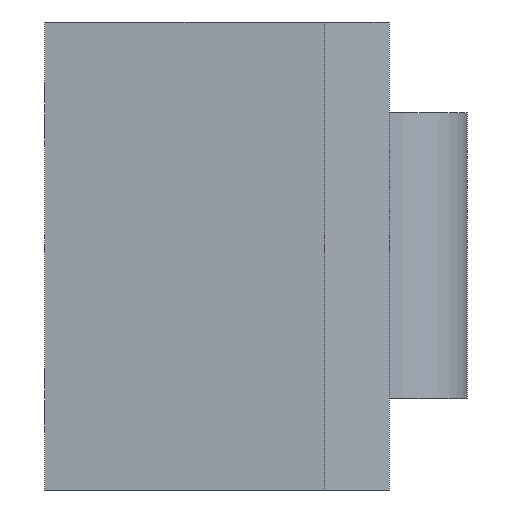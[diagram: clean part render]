
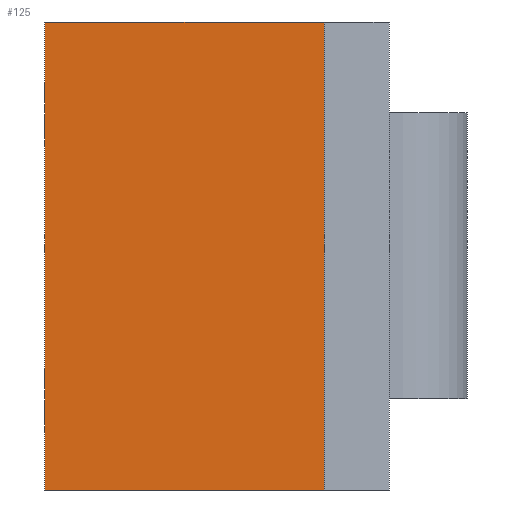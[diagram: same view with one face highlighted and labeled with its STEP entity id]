
A CAD part, front view. The second image highlights one B-rep face of the part: STEP entity #125.
In plain terms, the highlighted planar face has unit normal (0, -1, 0).
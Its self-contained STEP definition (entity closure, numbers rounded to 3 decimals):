
#125=ADVANCED_FACE('',(#187),#151,.T.);
#151=PLANE('',#523);
#187=FACE_OUTER_BOUND('',#215,.T.);
#215=EDGE_LOOP('',(#289,#290,#291,#292));
#289=ORIENTED_EDGE('',*,*,#414,.F.);
#290=ORIENTED_EDGE('',*,*,#418,.F.);
#291=ORIENTED_EDGE('',*,*,#405,.T.);
#292=ORIENTED_EDGE('',*,*,#400,.T.);
#359=VERTEX_POINT('',#706);
#362=VERTEX_POINT('',#711);
#366=VERTEX_POINT('',#722);
#371=VERTEX_POINT('',#736);
#400=EDGE_CURVE('',#359,#362,#448,.T.);
#405=EDGE_CURVE('',#366,#359,#452,.T.);
#414=EDGE_CURVE('',#371,#362,#460,.T.);
#418=EDGE_CURVE('',#366,#371,#464,.T.);
#448=LINE('',#712,#486);
#452=LINE('',#721,#490);
#460=LINE('',#737,#498);
#464=LINE('',#744,#502);
#486=VECTOR('',#579,1.);
#490=VECTOR('',#587,1.);
#498=VECTOR('',#599,1.);
#502=VECTOR('',#607,1.);
#523=AXIS2_PLACEMENT_3D('',#746,#610,#611);
#579=DIRECTION('',(0.,0.,-1.));
#587=DIRECTION('',(-1.,0.,0.));
#599=DIRECTION('',(-1.,0.,0.));
#607=DIRECTION('',(0.,0.,-1.));
#610=DIRECTION('',(0.,-1.,0.));
#611=DIRECTION('',(1.,0.,0.));
#706=CARTESIAN_POINT('',(-16.,-21.,36.));
#711=CARTESIAN_POINT('',(-16.,-21.,0.));
#712=CARTESIAN_POINT('',(-16.,-21.,36.));
#721=CARTESIAN_POINT('',(5.5,-21.,36.));
#722=CARTESIAN_POINT('',(5.5,-21.,36.));
#736=CARTESIAN_POINT('',(5.5,-21.,0.));
#737=CARTESIAN_POINT('',(5.5,-21.,0.));
#744=CARTESIAN_POINT('',(5.5,-21.,36.));
#746=CARTESIAN_POINT('',(5.5,-21.,36.));
